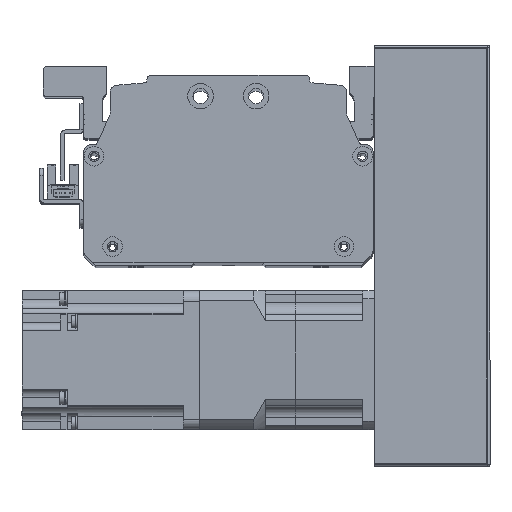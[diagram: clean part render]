
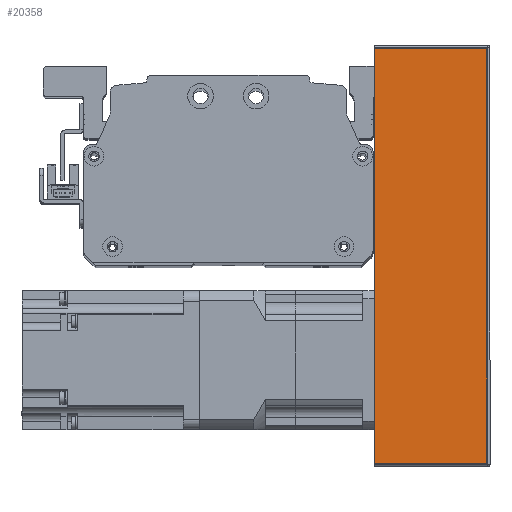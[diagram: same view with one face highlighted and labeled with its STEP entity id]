
A CAD part, top view. The second image highlights one B-rep face of the part: STEP entity #20358.
In plain terms, the highlighted planar face has unit normal (0, 0, 1) as drawn and (0, 1, 0) by its records, which use the part's own axes.
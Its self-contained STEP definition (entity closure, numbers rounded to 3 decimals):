
#568=PLANE('',#22333);
#1775=LINE('',#33123,#3399);
#1789=LINE('',#33168,#3413);
#1793=LINE('',#33190,#3417);
#1812=LINE('',#33253,#3436);
#3399=VECTOR('',#26894,10.);
#3413=VECTOR('',#26942,10.);
#3417=VECTOR('',#26976,10.);
#3436=VECTOR('',#27059,10.);
#5768=FACE_OUTER_BOUND('',#7192,.T.);
#7192=EDGE_LOOP('',(#16998,#16999,#17000,#17001));
#10008=VERTEX_POINT('',#33120);
#10009=VERTEX_POINT('',#33122);
#10022=VERTEX_POINT('',#33163);
#10023=VERTEX_POINT('',#33166);
#12433=EDGE_CURVE('',#10009,#10008,#1775,.T.);
#12457=EDGE_CURVE('',#10022,#10023,#1789,.T.);
#12469=EDGE_CURVE('',#10008,#10022,#1793,.T.);
#12500=EDGE_CURVE('',#10023,#10009,#1812,.T.);
#16998=ORIENTED_EDGE('',*,*,#12457,.T.);
#16999=ORIENTED_EDGE('',*,*,#12500,.T.);
#17000=ORIENTED_EDGE('',*,*,#12433,.T.);
#17001=ORIENTED_EDGE('',*,*,#12469,.T.);
#20358=ADVANCED_FACE('',(#5768),#568,.F.);
#22333=AXIS2_PLACEMENT_3D('',#33252,#27057,#27058);
#26894=DIRECTION('',(-1.,0.,0.));
#26942=DIRECTION('',(1.,0.,0.));
#26976=DIRECTION('',(0.,0.,1.));
#27057=DIRECTION('center_axis',(0.,-1.,0.));
#27058=DIRECTION('ref_axis',(-1.,0.,0.));
#27059=DIRECTION('',(0.,0.,-1.));
#33120=CARTESIAN_POINT('',(-90.,38.,-25.));
#33122=CARTESIAN_POINT('',(90.,38.,-25.));
#33123=CARTESIAN_POINT('',(-91.,38.,-25.));
#33163=CARTESIAN_POINT('',(-90.,38.,24.));
#33166=CARTESIAN_POINT('',(90.,38.,24.));
#33168=CARTESIAN_POINT('',(45.5,38.,24.));
#33190=CARTESIAN_POINT('',(-90.,38.,0.));
#33252=CARTESIAN_POINT('Origin',(91.,38.,0.));
#33253=CARTESIAN_POINT('',(90.,38.,0.));
